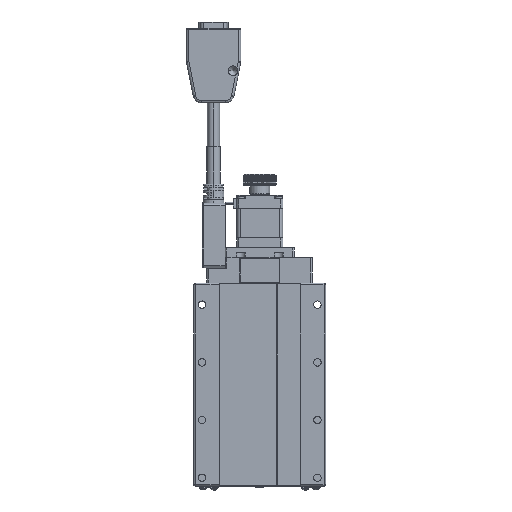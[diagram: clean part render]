
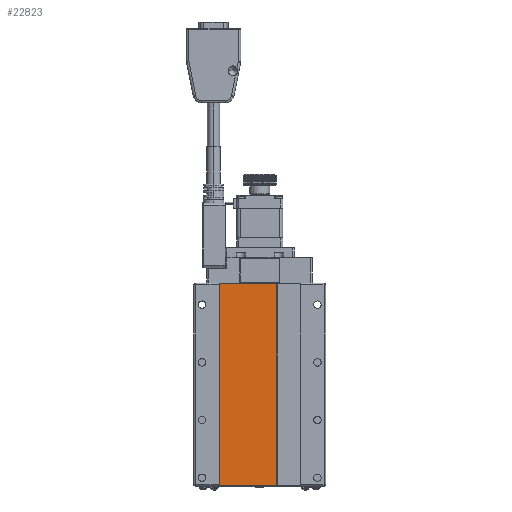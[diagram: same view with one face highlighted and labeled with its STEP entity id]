
A CAD part, front view. The second image highlights one B-rep face of the part: STEP entity #22823.
In plain terms, the highlighted planar face has unit normal (0, -1, 0).
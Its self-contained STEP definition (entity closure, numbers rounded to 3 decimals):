
#520 = FACE_OUTER_BOUND ( 'NONE', #81349, .T. ) ;
#2939 = VERTEX_POINT ( 'NONE', #74852 ) ;
#3258 = LINE ( 'NONE', #63625, #59992 ) ;
#12071 = EDGE_CURVE ( 'NONE', #33684, #85742, #3258, .T. ) ;
#14566 = ORIENTED_EDGE ( 'NONE', *, *, #12071, .T. ) ;
#15513 = LINE ( 'NONE', #32554, #64846 ) ;
#18150 = ORIENTED_EDGE ( 'NONE', *, *, #44416, .T. ) ;
#22823 = ADVANCED_FACE ( 'NONE', ( #520 ), #35255, .F. ) ;
#27282 = DIRECTION ( 'NONE',  ( -1., 0., 0. ) ) ;
#27748 = DIRECTION ( 'NONE',  ( -1., 0., 0. ) ) ;
#29245 = CARTESIAN_POINT ( 'NONE',  ( -24.3, 0.3, 122.8 ) ) ;
#32008 = DIRECTION ( 'NONE',  ( 1., 0., 0. ) ) ;
#32013 = VERTEX_POINT ( 'NONE', #65015 ) ;
#32554 = CARTESIAN_POINT ( 'NONE',  ( -24.3, 0.3, 0.2 ) ) ;
#33684 = VERTEX_POINT ( 'NONE', #29245 ) ;
#35255 = PLANE ( 'NONE',  #87915 ) ;
#35417 = EDGE_CURVE ( 'NONE', #32013, #2939, #84745, .T. ) ;
#35889 = CARTESIAN_POINT ( 'NONE',  ( -24.3, 0.3, 0.2 ) ) ;
#37999 = DIRECTION ( 'NONE',  ( 0., 0., -1. ) ) ;
#44416 = EDGE_CURVE ( 'NONE', #2939, #33684, #105726, .T. ) ;
#56851 = CARTESIAN_POINT ( 'NONE',  ( 10.3, 0.3, 0.2 ) ) ;
#59992 = VECTOR ( 'NONE', #37999, 1000. ) ;
#63625 = CARTESIAN_POINT ( 'NONE',  ( -24.3, 0.3, 0.2 ) ) ;
#64846 = VECTOR ( 'NONE', #32008, 1000. ) ;
#65015 = CARTESIAN_POINT ( 'NONE',  ( 10.3, 0.3, 0.2 ) ) ;
#69621 = VECTOR ( 'NONE', #93252, 1000. ) ;
#74852 = CARTESIAN_POINT ( 'NONE',  ( 10.3, 0.3, 122.8 ) ) ;
#79076 = DIRECTION ( 'NONE',  ( 0., 1., 0. ) ) ;
#81349 = EDGE_LOOP ( 'NONE', ( #14566, #99520, #88991, #18150 ) ) ;
#81494 = VECTOR ( 'NONE', #27748, 1000. ) ;
#84745 = LINE ( 'NONE', #56851, #69621 ) ;
#85742 = VERTEX_POINT ( 'NONE', #35889 ) ;
#86518 = CARTESIAN_POINT ( 'NONE',  ( -24.3, 0.3, 122.8 ) ) ;
#87915 = AXIS2_PLACEMENT_3D ( 'NONE', #86518, #79076, #27282 ) ;
#88991 = ORIENTED_EDGE ( 'NONE', *, *, #35417, .T. ) ;
#93252 = DIRECTION ( 'NONE',  ( 0., 0., 1. ) ) ;
#99520 = ORIENTED_EDGE ( 'NONE', *, *, #111943, .T. ) ;
#105726 = LINE ( 'NONE', #112556, #81494 ) ;
#111943 = EDGE_CURVE ( 'NONE', #85742, #32013, #15513, .T. ) ;
#112556 = CARTESIAN_POINT ( 'NONE',  ( -24.3, 0.3, 122.8 ) ) ;
